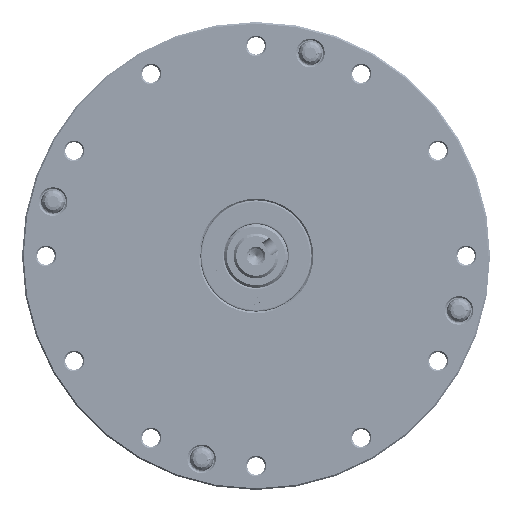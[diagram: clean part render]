
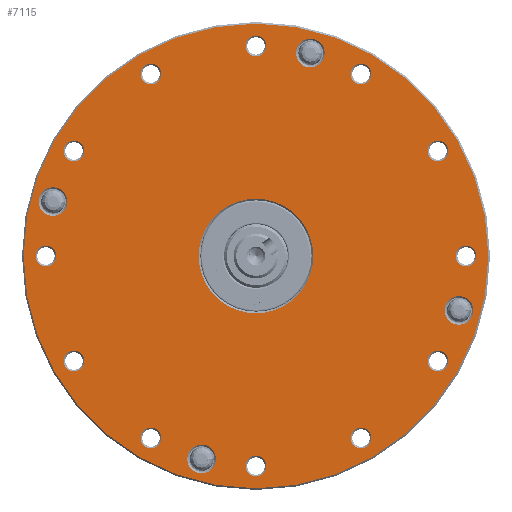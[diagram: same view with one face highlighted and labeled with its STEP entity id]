
A CAD part, front view. The second image highlights one B-rep face of the part: STEP entity #7115.
In plain terms, the highlighted planar face has unit normal (0, -1, 0).
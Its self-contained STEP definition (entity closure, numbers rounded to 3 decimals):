
#6300=PLANE('',#22418);
#7115=ADVANCED_FACE('',(#8755,#8756,#8757,#8758,#8759,#8760,#8761,#8762,
#8763,#8764,#8765,#8766,#8767,#8768,#8769,#8770,#8771,#8772),#6300,.F.);
#8755=FACE_BOUND('',#10463,.T.);
#8756=FACE_BOUND('',#10464,.T.);
#8757=FACE_BOUND('',#10465,.T.);
#8758=FACE_BOUND('',#10466,.T.);
#8759=FACE_BOUND('',#10467,.T.);
#8760=FACE_BOUND('',#10468,.T.);
#8761=FACE_BOUND('',#10469,.T.);
#8762=FACE_BOUND('',#10470,.T.);
#8763=FACE_BOUND('',#10471,.T.);
#8764=FACE_BOUND('',#10472,.T.);
#8765=FACE_BOUND('',#10473,.T.);
#8766=FACE_BOUND('',#10474,.T.);
#8767=FACE_BOUND('',#10475,.T.);
#8768=FACE_BOUND('',#10476,.T.);
#8769=FACE_BOUND('',#10477,.T.);
#8770=FACE_BOUND('',#10478,.T.);
#8771=FACE_BOUND('',#10479,.T.);
#8772=FACE_BOUND('',#10480,.T.);
#10463=EDGE_LOOP('',(#13769));
#10464=EDGE_LOOP('',(#13770));
#10465=EDGE_LOOP('',(#13771));
#10466=EDGE_LOOP('',(#13772));
#10467=EDGE_LOOP('',(#13773));
#10468=EDGE_LOOP('',(#13774));
#10469=EDGE_LOOP('',(#13775));
#10470=EDGE_LOOP('',(#13776));
#10471=EDGE_LOOP('',(#13777));
#10472=EDGE_LOOP('',(#13778));
#10473=EDGE_LOOP('',(#13779));
#10474=EDGE_LOOP('',(#13780));
#10475=EDGE_LOOP('',(#13781));
#10476=EDGE_LOOP('',(#13782));
#10477=EDGE_LOOP('',(#13783));
#10478=EDGE_LOOP('',(#13784));
#10479=EDGE_LOOP('',(#13785));
#10480=EDGE_LOOP('',(#13786));
#13769=ORIENTED_EDGE('',*,*,#19318,.T.);
#13770=ORIENTED_EDGE('',*,*,#19319,.T.);
#13771=ORIENTED_EDGE('',*,*,#19320,.T.);
#13772=ORIENTED_EDGE('',*,*,#19321,.T.);
#13773=ORIENTED_EDGE('',*,*,#19322,.T.);
#13774=ORIENTED_EDGE('',*,*,#19323,.T.);
#13775=ORIENTED_EDGE('',*,*,#19324,.T.);
#13776=ORIENTED_EDGE('',*,*,#19325,.T.);
#13777=ORIENTED_EDGE('',*,*,#19326,.T.);
#13778=ORIENTED_EDGE('',*,*,#19327,.T.);
#13779=ORIENTED_EDGE('',*,*,#19328,.T.);
#13780=ORIENTED_EDGE('',*,*,#19329,.T.);
#13781=ORIENTED_EDGE('',*,*,#19330,.T.);
#13782=ORIENTED_EDGE('',*,*,#19331,.T.);
#13783=ORIENTED_EDGE('',*,*,#19332,.T.);
#13784=ORIENTED_EDGE('',*,*,#19333,.T.);
#13785=ORIENTED_EDGE('',*,*,#19334,.T.);
#13786=ORIENTED_EDGE('',*,*,#19335,.T.);
#17173=VERTEX_POINT('',#108006);
#17174=VERTEX_POINT('',#108008);
#17175=VERTEX_POINT('',#108010);
#17176=VERTEX_POINT('',#108012);
#17177=VERTEX_POINT('',#108014);
#17178=VERTEX_POINT('',#108016);
#17179=VERTEX_POINT('',#108018);
#17180=VERTEX_POINT('',#108020);
#17181=VERTEX_POINT('',#108022);
#17182=VERTEX_POINT('',#108024);
#17183=VERTEX_POINT('',#108026);
#17184=VERTEX_POINT('',#108028);
#17185=VERTEX_POINT('',#108030);
#17186=VERTEX_POINT('',#108032);
#17187=VERTEX_POINT('',#108034);
#17188=VERTEX_POINT('',#108036);
#17189=VERTEX_POINT('',#108038);
#17190=VERTEX_POINT('',#108040);
#19318=EDGE_CURVE('',#17173,#17173,#20988,.T.);
#19319=EDGE_CURVE('',#17174,#17174,#20989,.T.);
#19320=EDGE_CURVE('',#17175,#17175,#20990,.T.);
#19321=EDGE_CURVE('',#17176,#17176,#20991,.T.);
#19322=EDGE_CURVE('',#17177,#17177,#20992,.T.);
#19323=EDGE_CURVE('',#17178,#17178,#20993,.T.);
#19324=EDGE_CURVE('',#17179,#17179,#20994,.T.);
#19325=EDGE_CURVE('',#17180,#17180,#20995,.T.);
#19326=EDGE_CURVE('',#17181,#17181,#20996,.T.);
#19327=EDGE_CURVE('',#17182,#17182,#20997,.T.);
#19328=EDGE_CURVE('',#17183,#17183,#20998,.T.);
#19329=EDGE_CURVE('',#17184,#17184,#20999,.T.);
#19330=EDGE_CURVE('',#17185,#17185,#21000,.T.);
#19331=EDGE_CURVE('',#17186,#17186,#21001,.T.);
#19332=EDGE_CURVE('',#17187,#17187,#21002,.T.);
#19333=EDGE_CURVE('',#17188,#17188,#21003,.T.);
#19334=EDGE_CURVE('',#17189,#17189,#21004,.T.);
#19335=EDGE_CURVE('',#17190,#17190,#21005,.T.);
#20988=CIRCLE('',#22400,3.25);
#20989=CIRCLE('',#22401,4.5);
#20990=CIRCLE('',#22402,3.25);
#20991=CIRCLE('',#22403,3.25);
#20992=CIRCLE('',#22404,3.25);
#20993=CIRCLE('',#22405,4.5);
#20994=CIRCLE('',#22406,3.25);
#20995=CIRCLE('',#22407,3.25);
#20996=CIRCLE('',#22408,3.25);
#20997=CIRCLE('',#22409,4.5);
#20998=CIRCLE('',#22410,3.25);
#20999=CIRCLE('',#22411,3.25);
#21000=CIRCLE('',#22412,3.25);
#21001=CIRCLE('',#22413,4.5);
#21002=CIRCLE('',#22414,3.25);
#21003=CIRCLE('',#22415,3.25);
#21004=CIRCLE('',#22416,18.);
#21005=CIRCLE('',#22417,73.);
#22400=AXIS2_PLACEMENT_3D('',#108005,#25596,#25597);
#22401=AXIS2_PLACEMENT_3D('',#108007,#25598,#25599);
#22402=AXIS2_PLACEMENT_3D('',#108009,#25600,#25601);
#22403=AXIS2_PLACEMENT_3D('',#108011,#25602,#25603);
#22404=AXIS2_PLACEMENT_3D('',#108013,#25604,#25605);
#22405=AXIS2_PLACEMENT_3D('',#108015,#25606,#25607);
#22406=AXIS2_PLACEMENT_3D('',#108017,#25608,#25609);
#22407=AXIS2_PLACEMENT_3D('',#108019,#25610,#25611);
#22408=AXIS2_PLACEMENT_3D('',#108021,#25612,#25613);
#22409=AXIS2_PLACEMENT_3D('',#108023,#25614,#25615);
#22410=AXIS2_PLACEMENT_3D('',#108025,#25616,#25617);
#22411=AXIS2_PLACEMENT_3D('',#108027,#25618,#25619);
#22412=AXIS2_PLACEMENT_3D('',#108029,#25620,#25621);
#22413=AXIS2_PLACEMENT_3D('',#108031,#25622,#25623);
#22414=AXIS2_PLACEMENT_3D('',#108033,#25624,#25625);
#22415=AXIS2_PLACEMENT_3D('',#108035,#25626,#25627);
#22416=AXIS2_PLACEMENT_3D('',#108037,#25628,#25629);
#22417=AXIS2_PLACEMENT_3D('',#108039,#25630,#25631);
#22418=AXIS2_PLACEMENT_3D('',#108041,#25632,#25633);
#25596=DIRECTION('',(0.,1.,0.));
#25597=DIRECTION('',(0.,0.,1.));
#25598=DIRECTION('',(0.,1.,0.));
#25599=DIRECTION('',(0.,0.,1.));
#25600=DIRECTION('',(0.,1.,0.));
#25601=DIRECTION('',(0.,0.,1.));
#25602=DIRECTION('',(0.,1.,0.));
#25603=DIRECTION('',(0.,0.,1.));
#25604=DIRECTION('',(0.,1.,0.));
#25605=DIRECTION('',(0.,0.,1.));
#25606=DIRECTION('',(0.,1.,0.));
#25607=DIRECTION('',(0.,0.,1.));
#25608=DIRECTION('',(0.,1.,0.));
#25609=DIRECTION('',(0.,0.,1.));
#25610=DIRECTION('',(0.,1.,0.));
#25611=DIRECTION('',(0.,0.,1.));
#25612=DIRECTION('',(0.,1.,0.));
#25613=DIRECTION('',(0.,0.,1.));
#25614=DIRECTION('',(0.,1.,0.));
#25615=DIRECTION('',(0.,0.,1.));
#25616=DIRECTION('',(0.,1.,0.));
#25617=DIRECTION('',(0.,0.,1.));
#25618=DIRECTION('',(0.,1.,0.));
#25619=DIRECTION('',(0.,0.,1.));
#25620=DIRECTION('',(0.,1.,0.));
#25621=DIRECTION('',(0.,0.,1.));
#25622=DIRECTION('',(0.,1.,0.));
#25623=DIRECTION('',(0.,0.,1.));
#25624=DIRECTION('',(0.,1.,0.));
#25625=DIRECTION('',(0.,0.,1.));
#25626=DIRECTION('',(0.,1.,0.));
#25627=DIRECTION('',(0.,0.,1.));
#25628=DIRECTION('',(0.,1.,0.));
#25629=DIRECTION('',(0.,0.,1.));
#25630=DIRECTION('',(0.,-1.,0.));
#25631=DIRECTION('',(0.,0.,1.));
#25632=DIRECTION('',(0.,1.,0.));
#25633=DIRECTION('',(0.,0.,1.));
#108005=CARTESIAN_POINT('',(0.,0.,-66.));
#108006=CARTESIAN_POINT('',(0.,0.,-62.75));
#108007=CARTESIAN_POINT('',(-17.082,0.,-63.751));
#108008=CARTESIAN_POINT('',(-17.082,0.,-59.251));
#108009=CARTESIAN_POINT('',(-33.,0.,-57.158));
#108010=CARTESIAN_POINT('',(-33.,0.,-53.908));
#108011=CARTESIAN_POINT('',(-57.158,0.,-33.));
#108012=CARTESIAN_POINT('',(-57.158,0.,-29.75));
#108013=CARTESIAN_POINT('',(-66.,0.,0.));
#108014=CARTESIAN_POINT('',(-66.,0.,3.25));
#108015=CARTESIAN_POINT('',(-63.751,0.,17.082));
#108016=CARTESIAN_POINT('',(-63.751,0.,21.582));
#108017=CARTESIAN_POINT('',(-57.158,0.,33.));
#108018=CARTESIAN_POINT('',(-57.158,0.,36.25));
#108019=CARTESIAN_POINT('',(-33.,0.,57.158));
#108020=CARTESIAN_POINT('',(-33.,0.,60.408));
#108021=CARTESIAN_POINT('',(0.,0.,66.));
#108022=CARTESIAN_POINT('',(0.,0.,69.25));
#108023=CARTESIAN_POINT('',(17.082,0.,63.751));
#108024=CARTESIAN_POINT('',(17.082,0.,68.251));
#108025=CARTESIAN_POINT('',(33.,0.,57.158));
#108026=CARTESIAN_POINT('',(33.,0.,60.408));
#108027=CARTESIAN_POINT('',(57.158,0.,33.));
#108028=CARTESIAN_POINT('',(57.158,0.,36.25));
#108029=CARTESIAN_POINT('',(66.,0.,0.));
#108030=CARTESIAN_POINT('',(66.,0.,3.25));
#108031=CARTESIAN_POINT('',(63.751,0.,-17.082));
#108032=CARTESIAN_POINT('',(63.751,0.,-12.582));
#108033=CARTESIAN_POINT('',(57.158,0.,-33.));
#108034=CARTESIAN_POINT('',(57.158,0.,-29.75));
#108035=CARTESIAN_POINT('',(33.,0.,-57.158));
#108036=CARTESIAN_POINT('',(33.,0.,-53.908));
#108037=CARTESIAN_POINT('',(0.,0.,0.));
#108038=CARTESIAN_POINT('',(0.,0.,18.));
#108039=CARTESIAN_POINT('',(0.,0.,0.));
#108040=CARTESIAN_POINT('',(0.,0.,73.));
#108041=CARTESIAN_POINT('',(30.,0.,0.));
